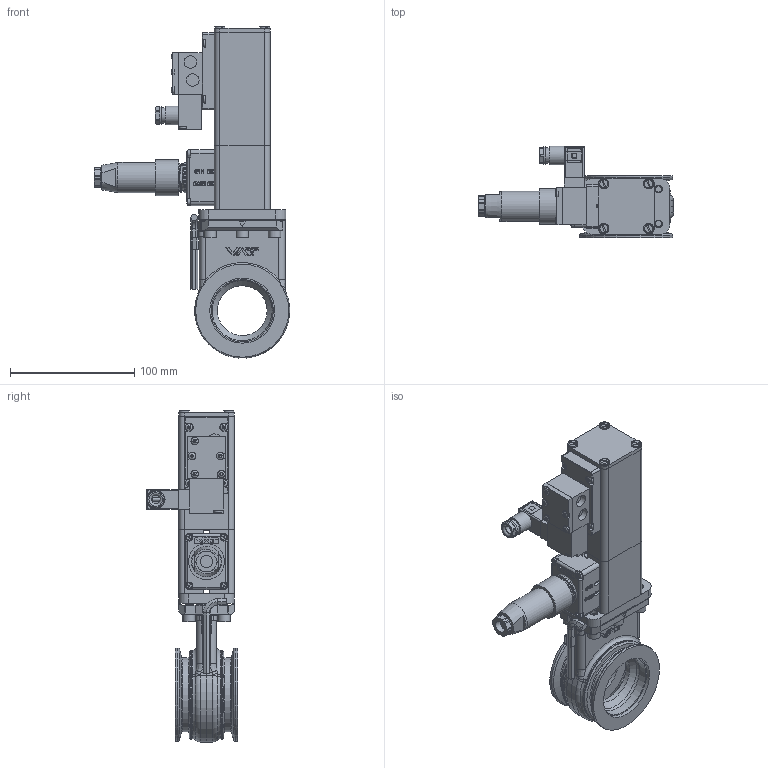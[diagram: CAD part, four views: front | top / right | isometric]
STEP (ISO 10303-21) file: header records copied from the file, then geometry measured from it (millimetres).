
FILE_DESCRIPTION(/* description */ (''),/* implementation_level */ '2;1');
FILE_NAME(/* name */ '1420787965_203.stp',/* time_stamp */ '2019-02-18T10:21:36+01:00',/* author */ (''),/* organization */ (''),/* preprocessor_version */ 'ST-DEVELOPER v16',/* originating_system */ 'SIEMENS PLM Software NX 11.0',/* authorisation */ '');
FILE_SCHEMA (('AP203_CONFIGURATION_CONTROLLED_3D_DESIGN_OF_MECHANICAL_PARTS_AND_ASSEMBLIES_MIM_LF { 1 0 10303 403 2 1 2}'));
Products named in the file (44): 63150-01_29228ID; 63150-01_29229ID; 467882; 437235; 63152-01.4_29251ID; N-7557-016_1.1; N-7557-018.1; N-7557-016_2.1; N-6024-524.1; 69672-01; 69252-01_29191ID; 69252-01_29192ID; 69852-01; 63172-01; 83436-01.1; 522373; n-6024-526; N-5018-005.1; 94294-01.3; 69846-01; n-8504-002; 723790; 66490-01.2; 66238-02.1; 252066.1; 252080.1; 66481-01.2; 70613-01.2; 69968-01.1; 73280-01_1.1; 228772.1; 318865; 63170-r1; 779763_NX-ARRAGMNTMassbild; 437438_NX-ARRAGMNTArrangement 1; 522431_NX-ARRAGMNTmit_Stecker1; 522365_NX-ARRAGMNTArrangement 1; 777483_NX-ARRAGMNTMassbild; 777482_NX-ARRAGMNTMassbild; 777481_NX-ARRAGMNTMassbild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
Assembly tree (68 placements, depth 5):
  335294
    777461_NX-ARRAGMNTMassbild
      777439_NX-ARRAGMNTMassbild
        777465_NX-ARRAGMNTMassbild
          63152-01.4_29251ID
      70613-01.2
      66481-01.2
      252080.1
      252066.1  x4
      66238-02.1  x4
      66490-01.2
    228772.1  x6
    73280-01_1.1
    69968-01.1
    777481_NX-ARRAGMNTMassbild
      723790  x4
      777482_NX-ARRAGMNTMassbild
        69252-01_29192ID
        69252-01_29191ID
      n-8504-002
      777483_NX-ARRAGMNTMassbild
        69672-01
      69846-01
    522365_NX-ARRAGMNTArrangement 1
      94294-01.3
      N-5018-005.1  x2
      n-6024-526  x4
      522373  x2
      522431_NX-ARRAGMNTmit_Stecker1
        N-6024-524.1  x6
        N-7557-016_2.1
        N-7557-018.1
        N-7557-016_1.1
        437438_NX-ARRAGMNTArrangement 1
          437235
          467882
    779763_NX-ARRAGMNTMassbild
      83436-01.1  x2
      63172-01
      63170-r1
        318865
          63150-01_29229ID
          63150-01_29228ID
      69852-01
Bounding box: 157.17 x 73.35 x 267.21 mm (x, y, z)
Volume: 354788.2 mm3; surface area: 202342.8 mm2
Topology: 68 solids, 68 shells, 2251 faces, 5674 edges, 3713 vertices
Faces by surface type: plane 1423, cylinder 493, extrusion 108, cone 78, torus 68, bspline 64, sphere 17
Full cylindrical faces by diameter (mm): 1.66 x7, 1.95 x4, 2 x4, 2.25 x4, 2.5 x10, 2.693 x4, 3 x21, 3.2 x2, 3.3 x12, 3.4 x10, 3.485 x4, 3.5 x3, 4 x14, 4.15 x4, 4.2 x2, 4.22 x1, 4.65 x4, 4.96 x6, 5 x7, 5.4 x4, 5.5 x1, 5.6 x8, 6 x34, 6.2 x6, 7 x1, 8.1 x4, 8.8 x2, 10 x11, 10.008 x1, 11 x1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
Entity records: 70889 total; most frequent: CARTESIAN_POINT 19586, ORIENTED_EDGE 8776, DIRECTION 7905, EDGE_CURVE 4388, VERTEX_POINT 3016, AXIS2_PLACEMENT_3D 2675, VECTOR 2555, LINE 2447
